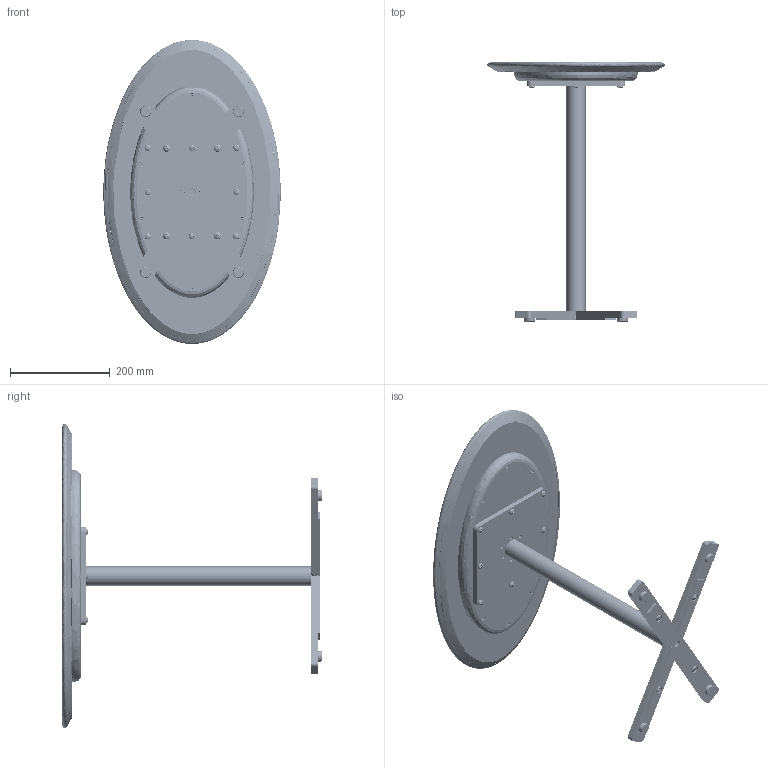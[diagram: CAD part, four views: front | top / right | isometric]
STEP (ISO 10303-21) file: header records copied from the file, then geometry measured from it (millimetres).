
FILE_DESCRIPTION(/* description */ ('CAPRI SIDE TABLE, 24'''' X 14'''' X 20.5"H '),/* implementation_level */ '2;1');
FILE_NAME(/* name */ '3134.stp',/* time_stamp */ '2025-07-03T13:05:19-04:00',/* author */ ('emendoza'),/* organization */ (''),/* preprocessor_version */ 'ST-DEVELOPER v20',/* originating_system */ 'Autodesk Inventor 2025',/* authorisation */ '');
FILE_SCHEMA (('AUTOMOTIVE_DESIGN { 1 0 10303 214 3 1 1 }'));
Products named in the file (40): 3134; 3134-010 ; 3134-011 ; 3134-011 _1; 3134-012; 3134-013; HD01-213; HD01-036; 3138-019; 3133-020; 3133-020_1; 3133-017; 3133-018 ; PA230; MEFA311; 3133-021; FA01-003; 3134-014; 3134-014_1; 3134-015; 3134-016; 3134-030; 3134-031; FA151; 3134-040; 3134-041; 3134-042; 3134-043; 3134-044; 3134-045; 3134-046; 3134-046_1; 3134-047; 3134-047_1; 3134-048; 3134-048_1; 3134-049; 3134-049_1; 95170-OS; FA012
Assembly tree (78 placements, depth 5):
  3134
    3134-010 
      3134-011 
        3134-011 _1
        3134-012
        3134-013  x2
        HD01-213
        HD01-036  x8
      3138-019
      3133-020
        3133-020_1
        3133-017
        3133-018   x2
      PA230  x4
      MEFA311
      3133-021
      FA01-003  x4
      3134-014
        3134-014_1
        3134-015
        3134-016  x2
    3134-030
      3134-031
      FA151  x8
    3134-040
      3134-041
        3134-042
          3134-043
          3134-044
          3134-045
        3134-046
        3134-046_1
        3134-047
        3134-047_1
        3134-048
        3134-048_1
        3134-049
        3134-049_1
    95170-OS  x8
    FA012  x10
Bounding box: 355.53 x 519.9 x 609.59 mm (x, y, z)
Volume: 5410786.7 mm3; surface area: 1587178.7 mm2
Topology: 87 solids, 87 shells, 2727 faces, 7364 edges, 4883 vertices
Faces by surface type: cylinder 1274, plane 924, cone 252, bspline 203, torus 62, sphere 12
Full cylindrical faces by diameter (mm): 2.812 x90, 3.489 x10, 4.166 x90, 4.7 x248, 4.711 x20, 4.762 x10, 6.35 x288, 7.144 x18, 7.747 x16, 7.938 x16, 8.433 x10, 10.162 x3, 11.112 x4, 12.497 x8, 12.7 x10, 13.494 x3, 14.287 x1, 14.554 x4, 15.088 x1, 15.875 x5, 19.05 x8, 19.844 x8, 22.225 x4, 31.75 x1, 33.337 x1, 34.798 x1, 38.1 x1, 76.2 x1
Entity records: 51629 total; most frequent: CARTESIAN_POINT 33329, ORIENTED_EDGE 3618, DIRECTION 3234, EDGE_CURVE 1809, AXIS2_PLACEMENT_3D 1233, VERTEX_POINT 1190, EDGE_LOOP 857, LINE 768
